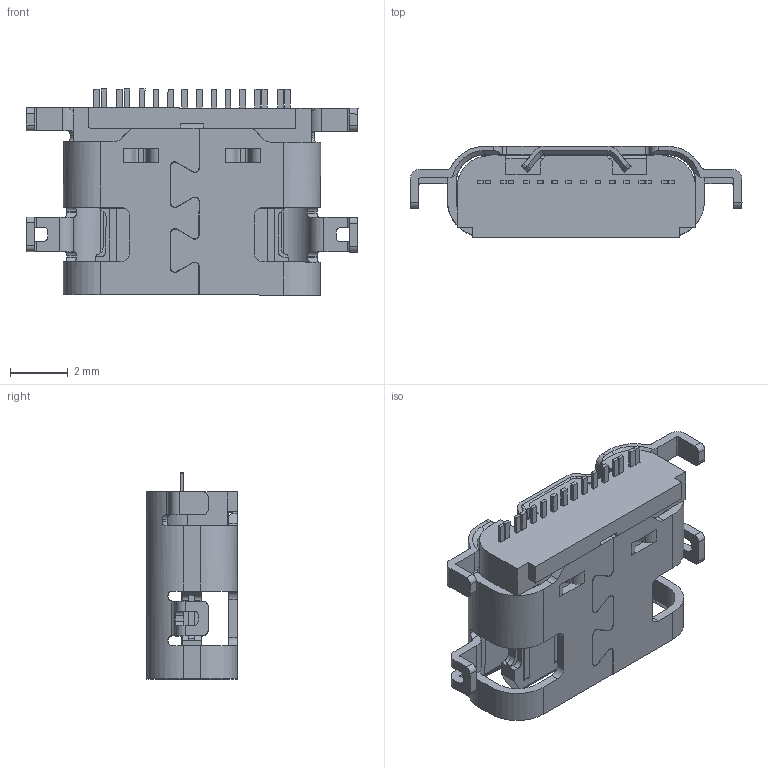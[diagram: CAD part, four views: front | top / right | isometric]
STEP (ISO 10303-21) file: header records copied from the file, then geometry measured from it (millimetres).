
FILE_DESCRIPTION (( 'STEP AP203' ), '1' );
FILE_NAME ('GT-USB-7014F.stp', '2023-04-19T08:53:44', ( '' ), ( '' ), 'SwSTEP 2.0', 'SolidWorks 2023', '' );
FILE_SCHEMA (( 'CONFIG_CONTROL_DESIGN' ));
Length unit declared in the file: millimetre
Products named in the file (1): GT-USB-7014F
Bounding box: 11.55 x 3.19 x 7.17 mm (x, y, z)
Volume: 94.8 mm3; surface area: 437.5 mm2
Topology: 1 solids, 1 shells, 1064 faces, 3053 edges, 1988 vertices
Faces by surface type: plane 770, cylinder 209, bspline 74, cone 11
Entity records: 38400 total; most frequent: CARTESIAN_POINT 11036, ORIENTED_EDGE 6106, DIRECTION 5047, EDGE_CURVE 3053, LINE 2325, VECTOR 2325, VERTEX_POINT 1988, AXIS2_PLACEMENT_3D 1361
